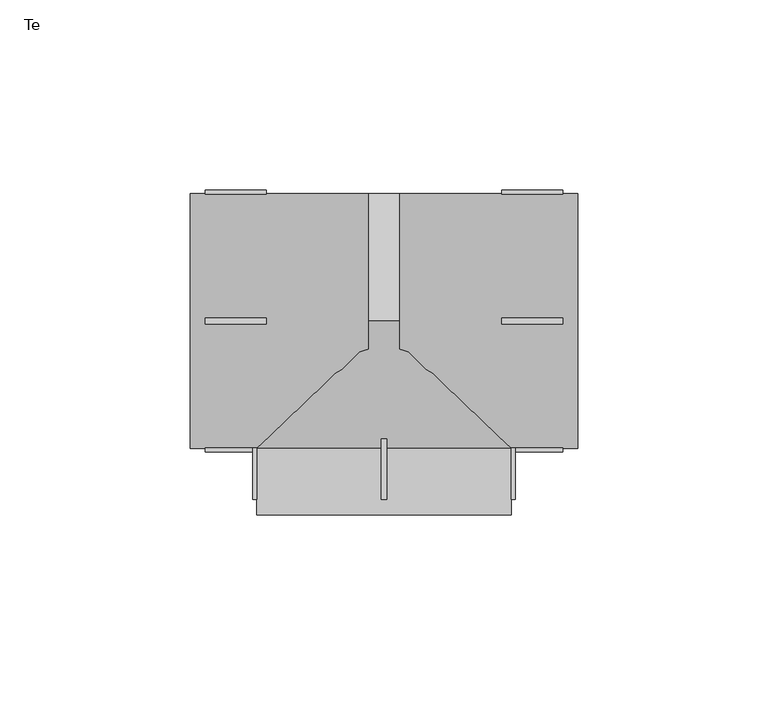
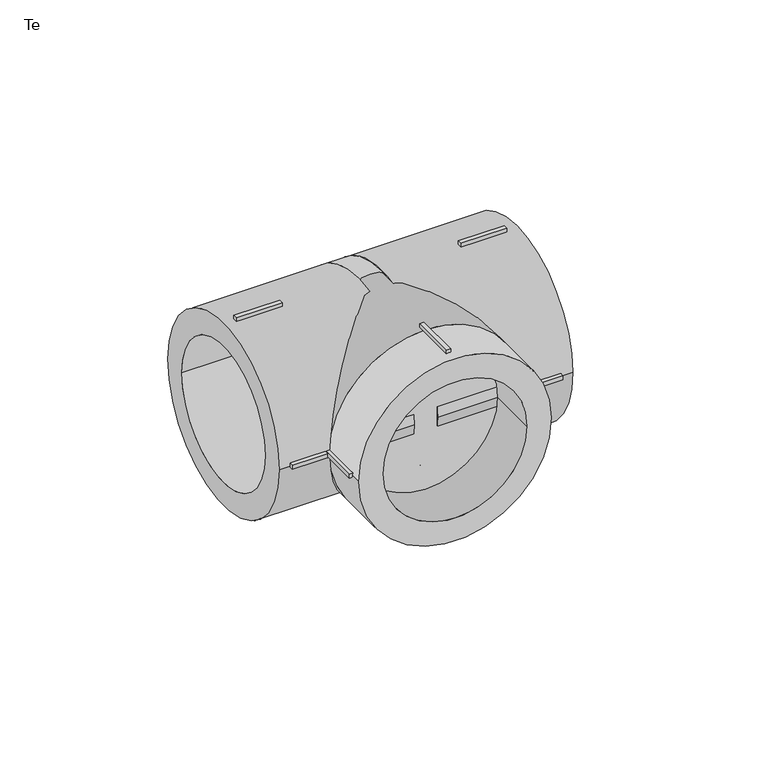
"""IFC4 building model written with IfcOpenShell, lengths in millimetres: pipe fitting geometry, EGB_VASEN_ PPR_Te WXR300_Te reducida WXR310 : Te."""

from ifc_helpers import new_model, si_unit, point, frame, origin, origin_2d, place, context, project, spatial, polyline, circle_curve, trimmed, segment, composite_curve, outline, extrude, source, transform, mapped, element, save


def te_dd5c2034(model_context):
    return source(origin(), model_context, "Body", "SweptSolid", [
        extrude(outline(polyline([(-0.75, -31.0), (0.75, -31.0), (0.75, -47.0), (-0.75, -47.0), (-0.75, -31.0)])), frame((0.0, 0.0, 32.5), z_axis=(0.0, 0.0, 1.0), x_axis=(1.0, 0.0, 0.0)), (0.0, 0.0, 1.0), 2.0),
        extrude(outline(polyline([(-0.75, -31.0), (0.75, -31.0), (0.75, -47.0), (-0.75, -47.0), (-0.75, -31.0)])), frame((0.0, 0.0, -34.5), z_axis=(0.0, 0.0, 1.0), x_axis=(1.0, 0.0, 0.0)), (0.0, 0.0, 1.0), 2.0),
        extrude(outline(polyline([(32.5, -31.0), (34.5, -31.0), (34.5, -47.0), (32.5, -47.0), (32.5, -31.0)])), frame((0.0, 0.0, -0.75), z_axis=(0.0, 0.0, 1.0), x_axis=(1.0, 0.0, 0.0)), (0.0, 0.0, 1.0), 1.5),
        extrude(outline(polyline([(-34.5, -31.0), (-32.5, -31.0), (-32.5, -47.0), (-34.5, -47.0), (-34.5, -31.0)])), frame((0.0, 0.0, -0.75), z_axis=(0.0, 0.0, 1.0), x_axis=(1.0, 0.0, 0.0)), (0.0, 0.0, 1.0), 1.5),
        extrude(outline(polyline([(31.0, -0.75), (31.0, 0.75), (47.0, 0.75), (47.0, -0.75), (31.0, -0.75)])), frame((0.0, 0.0, 32.5), z_axis=(0.0, 0.0, 1.0), x_axis=(1.0, 0.0, 0.0)), (0.0, 0.0, 1.0), 2.0),
        extrude(outline(polyline([(31.0, -0.75), (31.0, 0.75), (47.0, 0.75), (47.0, -0.75), (31.0, -0.75)])), frame((0.0, 0.0, -34.5), z_axis=(0.0, 0.0, 1.0), x_axis=(1.0, 0.0, 0.0)), (0.0, 0.0, 1.0), 2.0),
        extrude(outline(polyline([(31.0, 32.5), (31.0, 34.5), (47.0, 34.5), (47.0, 32.5), (31.0, 32.5)])), frame((0.0, 0.0, -0.75), z_axis=(0.0, 0.0, 1.0), x_axis=(1.0, 0.0, 0.0)), (0.0, 0.0, 1.0), 1.5),
        extrude(outline(polyline([(31.0, -34.5), (31.0, -32.5), (47.0, -32.5), (47.0, -34.5), (31.0, -34.5)])), frame((0.0, 0.0, -0.75), z_axis=(0.0, 0.0, 1.0), x_axis=(1.0, 0.0, 0.0)), (0.0, 0.0, 1.0), 1.5),
        extrude(outline(polyline([(-31.0, 0.75), (-31.0, -0.75), (-47.0, -0.75), (-47.0, 0.75), (-31.0, 0.75)])), frame((0.0, 0.0, 32.5), z_axis=(0.0, 0.0, 1.0), x_axis=(1.0, 0.0, 0.0)), (0.0, 0.0, 1.0), 2.0),
        extrude(outline(polyline([(-31.0, 0.75), (-31.0, -0.75), (-47.0, -0.75), (-47.0, 0.75), (-31.0, 0.75)])), frame((0.0, 0.0, -34.5), z_axis=(0.0, 0.0, 1.0), x_axis=(1.0, 0.0, 0.0)), (0.0, 0.0, 1.0), 2.0),
        extrude(outline(polyline([(-31.0, 34.5), (-31.0, 32.5), (-47.0, 32.5), (-47.0, 34.5), (-31.0, 34.5)])), frame((0.0, 0.0, -0.75), z_axis=(0.0, 0.0, 1.0), x_axis=(1.0, 0.0, 0.0)), (0.0, 0.0, 1.0), 1.5),
        extrude(outline(polyline([(-31.0, -32.5), (-31.0, -34.5), (-47.0, -34.5), (-47.0, -32.5), (-31.0, -32.5)])), frame((0.0, 0.0, -0.75), z_axis=(0.0, 0.0, 1.0), x_axis=(1.0, 0.0, 0.0)), (0.0, 0.0, 1.0), 1.5),
        extrude(outline(composite_curve([segment(trimmed(circle_curve(origin_2d(), 33.5), [point((0.0, 33.5))], [point((0.0, -33.5))], False, "CARTESIAN"), True, "CONTINUOUS"), segment(trimmed(circle_curve(origin_2d(), 33.5), [point((0.0, -33.5))], [point((0.0, 33.5))], False, "CARTESIAN"), True, "CONTINUOUS")], self_intersect=False), holes=[composite_curve([segment(trimmed(circle_curve(origin_2d(), 25.0), [point((0.0, 25.0))], [point((0.0, -25.0))], True, "CARTESIAN"), True, "CONTINUOUS"), segment(trimmed(circle_curve(origin_2d(), 25.0), [point((0.0, -25.0))], [point((0.0, 25.0))], True, "CARTESIAN"), True, "CONTINUOUS")], self_intersect=False)]), frame((0.0, -51.0, 0.0), z_axis=(0.0, 1.0, 0.0), x_axis=(0.0, 0.0, 1.0)), (0.0, 0.0, 1.0), 17.5),
        extrude(outline(composite_curve([segment(trimmed(circle_curve(origin_2d(), 33.5), [point((-33.5, 0.0))], [point((33.5, 0.0))], False, "CARTESIAN"), True, "CONTINUOUS"), segment(trimmed(circle_curve(origin_2d(), 33.5), [point((33.5, 0.0))], [point((-33.5, 0.0))], False, "CARTESIAN"), True, "CONTINUOUS")], self_intersect=False), holes=[composite_curve([segment(trimmed(circle_curve(origin_2d(), 25.0), [point((-25.0, 0.0))], [point((25.0, 0.0))], True, "CARTESIAN"), True, "CONTINUOUS"), segment(trimmed(circle_curve(origin_2d(), 25.0), [point((25.0, 0.0))], [point((-25.0, 0.0))], True, "CARTESIAN"), True, "CONTINUOUS")], self_intersect=False)]), frame((4.08, 0.0, 0.0), z_axis=(1.0, 0.0, 0.0), x_axis=(0.0, 1.0, 0.0)), (0.0, 0.0, 1.0), 46.92),
        extrude(outline(composite_curve([segment(trimmed(circle_curve(origin_2d(), 33.5), [point((-33.5, 0.0))], [point((33.5, 0.0))], False, "CARTESIAN"), True, "CONTINUOUS"), segment(trimmed(circle_curve(origin_2d(), 33.5), [point((33.5, 0.0))], [point((-33.5, 0.0))], False, "CARTESIAN"), True, "CONTINUOUS")], self_intersect=False), holes=[composite_curve([segment(trimmed(circle_curve(origin_2d(), 25.0), [point((-25.0, 0.0))], [point((25.0, 0.0))], True, "CARTESIAN"), True, "CONTINUOUS"), segment(trimmed(circle_curve(origin_2d(), 25.0), [point((25.0, 0.0))], [point((-25.0, 0.0))], True, "CARTESIAN"), True, "CONTINUOUS")], self_intersect=False)]), frame((-51.0, 0.0, 0.0), z_axis=(1.0, 0.0, 0.0), x_axis=(0.0, 1.0, 0.0)), (0.0, 0.0, 1.0), 46.92),
        extrude(outline(composite_curve([segment(trimmed(circle_curve(origin_2d(), 33.5), [point((0.0, 33.5))], [point((0.0, -33.5))], False, "CARTESIAN"), True, "CONTINUOUS"), segment(trimmed(circle_curve(origin_2d(), 33.5), [point((0.0, -33.5))], [point((0.0, 33.5))], False, "CARTESIAN"), True, "CONTINUOUS")], self_intersect=False)), frame((0.0, -33.5, 0.0), z_axis=(0.0, 1.0, 0.0), x_axis=(0.0, 0.0, 1.0)), (0.0, 0.0, 1.0), 33.5),
        extrude(outline(composite_curve([segment(trimmed(circle_curve(origin_2d(), 33.5), [point((-33.5, 0.0))], [point((33.5, 0.0))], False, "CARTESIAN"), True, "CONTINUOUS"), segment(trimmed(circle_curve(origin_2d(), 33.5), [point((33.5, 0.0))], [point((-33.5, 0.0))], False, "CARTESIAN"), True, "CONTINUOUS")], self_intersect=False)), frame((-4.08, 0.0, 0.0), z_axis=(1.0, 0.0, 0.0), x_axis=(0.0, 1.0, 0.0)), (0.0, 0.0, 1.0), 8.16),
    ])


if __name__ == "__main__":
    model = new_model("IFC4")
    model_context = context("Model", 3, world=origin())
    ifc_project = project(units=[si_unit("LENGTHUNIT", "METRE", prefix="MILLI")], contexts=[model_context])
    site = spatial("IfcSite", under=ifc_project)
    building = spatial("IfcBuilding", under=site)
    placement = place(None, origin())
    te_shape = te_dd5c2034(model_context)
    element("IfcPipeFitting", 1, ObjectType="EGB_VASEN_ PPR_Te WXR300_Te reducida WXR310 : Te", at=placement, inside=building, context=model_context, shape_type="MappedRepresentation", body=[
        mapped(te_shape, transform((0.0, 0.0, 0.0), x_axis=(1.0, 0.0, 0.0), y_axis=(0.0, 1.0, 0.0), z_axis=(0.0, 0.0, 1.0))),
    ])
    save(model, "model.ifc")
